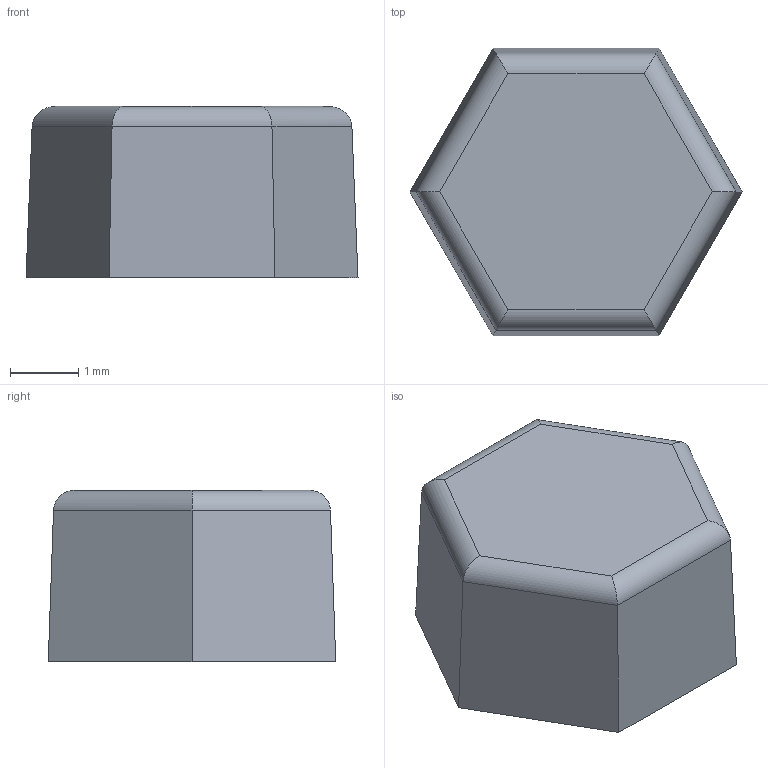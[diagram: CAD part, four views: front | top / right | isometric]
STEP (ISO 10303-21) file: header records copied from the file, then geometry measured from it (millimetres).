
FILE_DESCRIPTION(/* description */ ('Katalogmodell Elobau'),/* implementation_level */ '2;1');
FILE_NAME(/* name */ '35104_A.stp',/* time_stamp */ '2016-12-01T09:20:18+01:00',/* author */ ('Elobau GmbH & Co. KG'),/* organization */ ('Elobau GmbH & Co. KG'),/* preprocessor_version */ 'ST-DEVELOPER v15',/* originating_system */ 'SIEMENS PLM Software NX 8.5',/* authorisation */ '');
FILE_SCHEMA (('AUTOMOTIVE_DESIGN { 1 0 10303 214 3 1 1 1 }'));
Length unit declared in the file: millimetre
Products named in the file (1): 35104_A
Bounding box: 4.85 x 4.2 x 2.5 mm (x, y, z)
Volume: 36.4 mm3; surface area: 63.3 mm2
Topology: 1 solids, 1 shells, 14 faces, 30 edges, 18 vertices
Faces by surface type: plane 8, cylinder 6
Entity records: 396 total; most frequent: DIRECTION 66, CARTESIAN_POINT 63, ORIENTED_EDGE 60, EDGE_CURVE 30, LINE 24, VECTOR 24, AXIS2_PLACEMENT_3D 21, VERTEX_POINT 18
